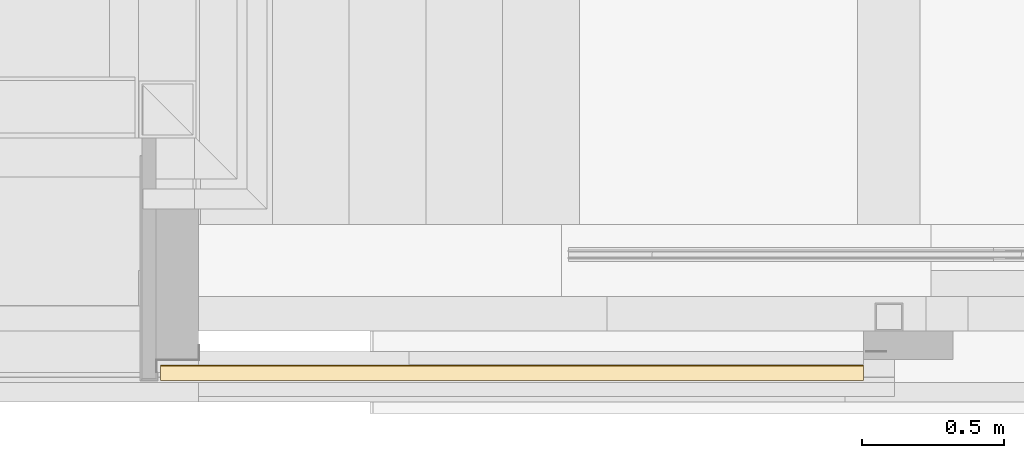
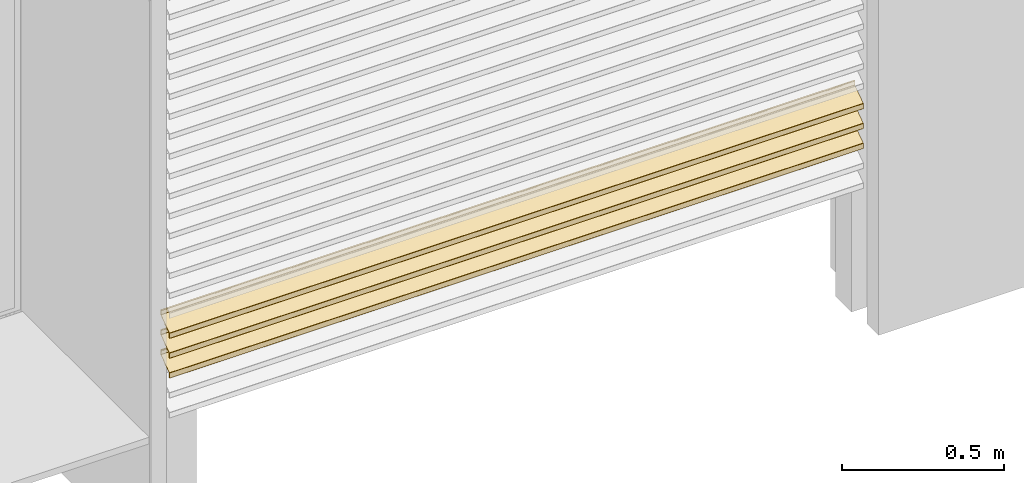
# One storey, part 102 of 165: 3 coverings, 1 element without a shape of its own.
"""IFC2X3 building model written with IfcOpenShell, lengths in millimetres."""

from ifc_helpers import new_model, entity, si_unit, converted_unit, derived_unit, money_unit, direction, frame, origin_with_axes, place, context, subcontext, project, spatial, faceted_brep, material, type_object, element, aggregate, save


model = new_model("IFC2X3")

# Units and contexts
model_context = context("Model", 3, precision=0.01, world=origin_with_axes(), true_north=direction((0.0, 1.0)))
body_context = subcontext(model_context, "Body", "Model", "MODEL_VIEW")
ifc_project = project(units=[si_unit("LENGTHUNIT", "METRE", prefix="MILLI"), si_unit("AREAUNIT", "SQUARE_METRE"), si_unit("VOLUMEUNIT", "CUBIC_METRE"), converted_unit("PLANEANGLEUNIT", "DEGREE", entity("IfcPlaneAngleMeasure", 0.0174532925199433), si_unit("PLANEANGLEUNIT", "RADIAN"), dimensions=[0, 0, 0, 0, 0, 0, 0]), money_unit("EUR"), converted_unit("TIMEUNIT", "Year", entity("IfcTimeMeasure", 31556926.0), si_unit("TIMEUNIT", "SECOND"), dimensions=[0, 0, 1, 0, 0, 0, 0]), si_unit("MASSUNIT", "GRAM", prefix="KILO"), si_unit("THERMODYNAMICTEMPERATUREUNIT", "DEGREE_CELSIUS"), si_unit("LUMINOUSINTENSITYUNIT", "LUMEN"), si_unit("ENERGYUNIT", "JOULE", prefix="MEGA"), derived_unit("THERMALCONDUCTANCEUNIT", [(si_unit("POWERUNIT", "WATT"), 1), (si_unit("LENGTHUNIT", "METRE"), -1), (si_unit("THERMODYNAMICTEMPERATUREUNIT", "KELVIN"), -1)]), derived_unit("SPECIFICHEATCAPACITYUNIT", [(si_unit("ENERGYUNIT", "JOULE"), 1), (si_unit("MASSUNIT", "GRAM", prefix="KILO"), -1), (si_unit("THERMODYNAMICTEMPERATUREUNIT", "KELVIN"), -1)]), derived_unit("MASSDENSITYUNIT", [(si_unit("MASSUNIT", "GRAM", prefix="KILO"), 1), (si_unit("VOLUMEUNIT", "CUBIC_METRE"), -1)])], contexts=[model_context])

# Site, building, storey
site_placement = place(None, origin_with_axes())
site = spatial("IfcSite", under=ifc_project, at=site_placement, Name="Site", CompositionType="ELEMENT")
building_placement = place(site_placement, origin_with_axes())
building = spatial("IfcBuilding", under=site, at=building_placement, Name="Naam gebouw", CompositionType="ELEMENT")
storey_placement = place(building_placement, origin_with_axes())
storey = spatial("IfcBuildingStorey", under=building, at=storey_placement, Name="Begane grond", CompositionType="ELEMENT", Elevation=0.0)

# Beam, coverings
beam_type = type_object("IfcBeamType", Name="30 Duco Louvre deur 55 x 2627", PredefinedType="BEAM")
beam_placement = place(storey_placement, frame((13900.0, -116.9904125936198, 0.0), z_axis=(0.0, 0.0, 1.0), x_axis=(0.0, 1.0, 0.0)))
beam = element("IfcBeam", 1, at=beam_placement, inside=storey, type_object=beam_type, Name="_Regenwaterafvoer-x", ObjectType="BEAM")
ifc_material = material(Name="Metaal - Aluminium")
covering_1_placement = place(beam_placement, origin_with_axes())
covering_1 = element("IfcCovering", 2, at=covering_1_placement, material=ifc_material, Name="Metaal - Aluminium", PredefinedType="NOTDEFINED", context=body_context, shape_type="Brep", body=[
    faceted_brep([(-4.027927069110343, 2473.999999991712, 233.6995018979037), (-56.57357643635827, 2473.999999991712, 196.9066421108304), (-56.57357643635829, 0.0, 196.9066421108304), (-4.027927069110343, 0.0, 233.6995018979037), (-3.900000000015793, 2473.999999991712, 233.9452475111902), (-3.900000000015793, 2473.999999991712, 249.1264285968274), (-3.975892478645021, 2473.999999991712, 249.325867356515), (-4.165172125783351, 2473.999999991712, 249.4244001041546), (-4.372072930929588, 2473.999999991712, 249.3721742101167), (-5.427927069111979, 2473.999999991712, 248.6328571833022), (-5.634827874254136, 2473.999999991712, 248.5806312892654), (-5.824107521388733, 2473.999999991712, 248.679164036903), (-5.900000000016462, 2473.999999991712, 248.8786027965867), (-5.900000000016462, 2473.999999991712, 250.4656097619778), (-5.772072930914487, 2473.999999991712, 250.7113553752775), (-2.944145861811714, 2473.999999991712, 252.6914912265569), (-2.530344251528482, 2473.999999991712, 252.7959430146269), (-2.15178495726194, 2473.999999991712, 252.5988775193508), (-2.000000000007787, 2473.999999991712, 252.199999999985), (-2.000000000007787, 2473.999999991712, 233.3205670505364), (-2.42642356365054, 2473.999999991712, 232.5014150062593), (-26.08018232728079, 2473.999999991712, 215.9388748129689), (-26.40000000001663, 2473.999999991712, 215.3245107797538), (-26.40000000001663, 2473.999999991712, 212.1278174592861), (-26.61966991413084, 2473.999999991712, 211.5974873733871), (-28.0585786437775, 2473.999999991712, 210.158578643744), (-28.20000000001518, 2473.999999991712, 210.0999999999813), (-28.34142135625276, 2473.999999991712, 210.1585786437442), (-28.40000000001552, 2473.999999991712, 210.2999999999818), (-28.40000000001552, 2473.999999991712, 212.8737843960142), (-28.5897311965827, 2473.999999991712, 213.3723812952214), (-29.06293031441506, 2473.999999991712, 213.6187131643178), (-29.58018232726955, 2473.999999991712, 213.4881484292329), (-30.60000000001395, 2473.999999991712, 212.7740644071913), (-30.60000000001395, 2473.999999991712, 207.5999999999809), (-30.74644660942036, 2473.999999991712, 207.2464466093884), (-31.10000000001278, 2473.999999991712, 207.099999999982), (-32.10000000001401, 2473.999999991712, 207.099999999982), (-32.45355339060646, 2473.999999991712, 207.2464466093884), (-32.60000000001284, 2473.999999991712, 207.5999999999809), (-32.60000000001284, 2473.999999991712, 209.9329127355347), (-32.7897311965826, 2473.999999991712, 210.4315096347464), (-33.26293031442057, 2473.999999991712, 210.677841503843), (-33.78018232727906, 2473.999999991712, 210.547276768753), (-54.97207293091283, 2473.999999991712, 195.7085552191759), (-55.10000000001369, 2473.999999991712, 195.4628096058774), (-55.10000000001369, 2473.999999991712, 179.9735714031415), (-55.02410752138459, 2473.999999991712, 179.7741326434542), (-54.83482787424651, 2473.999999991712, 179.6755998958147), (-54.62792706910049, 2473.999999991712, 179.7278257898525), (-53.572072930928, 2473.999999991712, 180.4671428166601), (-53.36517212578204, 2473.999999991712, 180.5193687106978), (-53.17589247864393, 2473.999999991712, 180.4208359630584), (-53.1000000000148, 2473.999999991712, 180.2213972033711), (-53.1000000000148, 2473.999999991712, 178.6343902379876), (-53.22792706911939, 2473.999999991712, 178.3886446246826), (-56.05585413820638, 2473.999999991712, 176.4085087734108), (-56.46965574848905, 2473.999999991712, 176.3040569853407), (-56.84821504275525, 2473.999999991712, 176.5011224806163), (-57.00000000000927, 2473.999999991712, 176.8999999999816), (-57.00000000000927, 2473.999999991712, 196.0874900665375), (-57.00000000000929, 0.0, 196.0874900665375), (-57.00000000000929, 0.0, 176.8999999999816), (-56.84821504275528, 0.0, 176.5011224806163), (-56.46965574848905, 0.0, 176.3040569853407), (-56.05585413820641, 0.0, 176.4085087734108), (-53.22792706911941, 0.0, 178.3886446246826), (-53.10000000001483, 0.0, 178.6343902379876), (-53.10000000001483, 0.0, 180.2213972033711), (-53.17589247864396, 0.0, 180.4208359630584), (-53.36517212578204, 0.0, 180.5193687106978), (-53.57207293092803, 0.0, 180.4671428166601), (-54.62792706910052, 0.0, 179.7278257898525), (-54.83482787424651, 0.0, 179.6755998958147), (-55.02410752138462, 0.0, 179.7741326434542), (-55.10000000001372, 0.0, 179.9735714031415), (-55.10000000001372, 0.0, 195.4628096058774), (-54.97207293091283, 0.0, 195.7085552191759), (-33.78018232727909, 0.0, 210.547276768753), (-33.26293031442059, 0.0, 210.677841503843), (-32.78973119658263, 0.0, 210.4315096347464), (-32.60000000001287, 0.0, 209.9329127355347), (-32.60000000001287, 0.0, 207.5999999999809), (-32.45355339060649, 0.0, 207.2464466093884), (-32.10000000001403, 0.0, 207.099999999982), (-31.10000000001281, 0.0, 207.099999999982), (-30.74644660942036, 0.0, 207.2464466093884), (-30.60000000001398, 0.0, 207.5999999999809), (-30.60000000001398, 0.0, 212.7740644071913), (-29.58018232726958, 0.0, 213.4881484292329), (-29.06293031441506, 0.0, 213.6187131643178), (-28.5897311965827, 0.0, 213.3723812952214), (-28.40000000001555, 0.0, 212.8737843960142), (-28.40000000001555, 0.0, 210.2999999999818), (-28.34142135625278, 0.0, 210.1585786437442), (-28.20000000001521, 0.0, 210.0999999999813), (-28.05857864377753, 0.0, 210.158578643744), (-26.61966991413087, 0.0, 211.5974873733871), (-26.40000000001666, 0.0, 212.1278174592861), (-26.40000000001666, 0.0, 215.3245107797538), (-26.08018232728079, 0.0, 215.9388748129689), (-2.42642356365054, 0.0, 232.5014150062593), (-2.000000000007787, 0.0, 233.3205670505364), (-2.000000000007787, 0.0, 252.199999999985), (-2.15178495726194, 0.0, 252.5988775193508), (-2.530344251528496, 0.0, 252.7959430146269), (-2.944145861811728, 0.0, 252.6914912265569), (-5.772072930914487, 0.0, 250.7113553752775), (-5.900000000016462, 0.0, 250.4656097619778), (-5.900000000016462, 0.0, 248.8786027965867), (-5.824107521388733, 0.0, 248.679164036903), (-5.634827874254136, 0.0, 248.5806312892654), (-5.427927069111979, 0.0, 248.6328571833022), (-4.372072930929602, 0.0, 249.3721742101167), (-4.165172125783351, 0.0, 249.4244001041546), (-3.975892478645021, 0.0, 249.325867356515), (-3.900000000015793, 0.0, 249.1264285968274), (-3.900000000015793, 0.0, 233.9452475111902)], [[[0, 1, 2, 3]], [[0, 4, 5, 6, 7, 8, 9, 10, 11, 12, 13, 14, 15, 16, 17, 18, 19, 20, 21, 22, 23, 24, 25, 26, 27, 28, 29, 30, 31, 32, 33, 34, 35, 36, 37, 38, 39, 40, 41, 42, 43, 44, 45, 46, 47, 48, 49, 50, 51, 52, 53, 54, 55, 56, 57, 58, 59, 60, 1]], [[1, 60, 61, 2]], [[3, 2, 61, 62, 63, 64, 65, 66, 67, 68, 69, 70, 71, 72, 73, 74, 75, 76, 77, 78, 79, 80, 81, 82, 83, 84, 85, 86, 87, 88, 89, 90, 91, 92, 93, 94, 95, 96, 97, 98, 99, 100, 101, 102, 103, 104, 105, 106, 107, 108, 109, 110, 111, 112, 113, 114, 115, 116, 117]], [[4, 0, 3, 117]], [[5, 4, 117, 116]], [[6, 5, 116, 115]], [[7, 6, 115, 114]], [[8, 7, 114, 113]], [[9, 8, 113, 112]], [[10, 9, 112, 111]], [[11, 10, 111, 110]], [[12, 11, 110, 109]], [[13, 12, 109, 108]], [[14, 13, 108, 107]], [[15, 14, 107, 106]], [[16, 15, 106, 105]], [[17, 16, 105, 104]], [[18, 17, 104, 103]], [[19, 18, 103, 102]], [[20, 19, 102, 101]], [[21, 20, 101, 100]], [[22, 21, 100, 99]], [[23, 22, 99, 98]], [[24, 23, 98, 97]], [[25, 24, 97, 96]], [[26, 25, 96, 95]], [[27, 26, 95, 94]], [[28, 27, 94, 93]], [[29, 28, 93, 92]], [[30, 29, 92, 91]], [[31, 30, 91, 90]], [[32, 31, 90, 89]], [[33, 32, 89, 88]], [[34, 33, 88, 87]], [[35, 34, 87, 86]], [[36, 35, 86, 85]], [[37, 36, 85, 84]], [[38, 37, 84, 83]], [[39, 38, 83, 82]], [[40, 39, 82, 81]], [[41, 40, 81, 80]], [[42, 41, 80, 79]], [[43, 42, 79, 78]], [[44, 43, 78, 77]], [[45, 44, 77, 76]], [[46, 45, 76, 75]], [[47, 46, 75, 74]], [[48, 47, 74, 73]], [[49, 48, 73, 72]], [[50, 49, 72, 71]], [[51, 50, 71, 70]], [[52, 51, 70, 69]], [[53, 52, 69, 68]], [[54, 53, 68, 67]], [[55, 54, 67, 66]], [[56, 55, 66, 65]], [[57, 56, 65, 64]], [[58, 57, 64, 63]], [[59, 58, 63, 62]], [[60, 59, 62, 61]]]),
])
covering_2_placement = place(beam_placement, origin_with_axes())
covering_2 = element("IfcCovering", 3, at=covering_2_placement, material=ifc_material, Name="Metaal - Aluminium", PredefinedType="NOTDEFINED", context=body_context, shape_type="Brep", body=[
    faceted_brep([(-4.027927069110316, 2473.999999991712, 308.6995018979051), (-56.57357643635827, 2473.999999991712, 271.9066421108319), (-56.57357643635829, 0.0, 271.9066421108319), (-4.027927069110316, 0.0, 308.6995018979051), (-3.90000000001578, 2473.999999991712, 308.9452475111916), (-3.90000000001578, 2473.999999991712, 324.1264285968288), (-3.97589247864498, 2473.999999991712, 324.3258673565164), (-4.165172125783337, 2473.999999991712, 324.4244001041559), (-4.372072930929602, 2473.999999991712, 324.3721742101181), (-5.427927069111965, 2473.999999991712, 323.6328571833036), (-5.634827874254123, 2473.999999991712, 323.5806312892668), (-5.824107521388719, 2473.999999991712, 323.6791640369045), (-5.900000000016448, 2473.999999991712, 323.8786027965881), (-5.900000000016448, 2473.999999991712, 325.4656097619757), (-5.772072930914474, 2473.999999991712, 325.7113553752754), (-2.944145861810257, 2473.999999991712, 327.6914912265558), (-2.530344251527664, 2473.999999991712, 327.7959430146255), (-2.151784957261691, 2473.999999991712, 327.5988775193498), (-2.000000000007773, 2473.999999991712, 327.1999999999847), (-2.000000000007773, 2473.999999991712, 308.3205670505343), (-2.426423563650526, 2473.999999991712, 307.5014150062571), (-26.08018232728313, 2473.999999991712, 290.9388748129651), (-26.40000000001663, 2473.999999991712, 290.3245107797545), (-26.40000000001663, 2473.999999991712, 287.1278174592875), (-26.61966991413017, 2473.999999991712, 286.5974873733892), (-28.05857864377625, 2473.999999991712, 285.1585786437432), (-28.20000000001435, 2473.999999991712, 285.0999999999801), (-28.34142135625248, 2473.999999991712, 285.1585786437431), (-28.40000000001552, 2473.999999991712, 285.2999999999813), (-28.40000000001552, 2473.999999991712, 287.8737843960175), (-28.58973119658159, 2473.999999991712, 288.3723812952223), (-29.06293031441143, 2473.999999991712, 288.6187131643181), (-29.58018232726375, 2473.999999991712, 288.4881484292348), (-30.60000000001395, 2473.999999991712, 287.7740644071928), (-30.60000000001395, 2473.999999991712, 282.5999999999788), (-30.74644660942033, 2473.999999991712, 282.2464466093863), (-31.10000000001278, 2473.999999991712, 282.0999999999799), (-32.10000000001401, 2473.999999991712, 282.0999999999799), (-32.45355339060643, 2473.999999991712, 282.2464466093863), (-32.60000000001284, 2473.999999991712, 282.5999999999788), (-32.60000000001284, 2473.999999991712, 284.9329127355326), (-32.78973119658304, 2473.999999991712, 285.4315096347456), (-33.26293031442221, 2473.999999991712, 285.6778415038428), (-33.78018232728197, 2473.999999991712, 285.5472767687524), (-54.97207293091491, 2473.999999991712, 270.7085552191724), (-55.10000000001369, 2473.999999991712, 270.4628096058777), (-55.10000000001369, 2473.999999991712, 254.973571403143), (-55.02410752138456, 2473.999999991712, 254.7741326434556), (-54.83482787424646, 2473.999999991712, 254.6755998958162), (-54.62792706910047, 2473.999999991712, 254.7278257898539), (-53.572072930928, 2473.999999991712, 255.4671428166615), (-53.36517212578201, 2473.999999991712, 255.5193687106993), (-53.17589247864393, 2473.999999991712, 255.4208359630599), (-53.1000000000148, 2473.999999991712, 255.2213972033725), (-53.1000000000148, 2473.999999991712, 253.6343902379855), (-53.22792706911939, 2473.999999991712, 253.3886446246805), (-56.05585413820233, 2473.999999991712, 251.4085087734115), (-56.46965574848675, 2473.999999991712, 251.3040569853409), (-56.84821504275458, 2473.999999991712, 251.5011224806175), (-57.00000000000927, 2473.999999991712, 251.8999999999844), (-57.00000000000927, 2473.999999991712, 271.087490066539), (-57.00000000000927, 0.0, 271.087490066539), (-57.00000000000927, 0.0, 251.8999999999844), (-56.84821504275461, 0.0, 251.5011224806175), (-56.46965574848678, 0.0, 251.3040569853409), (-56.05585413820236, 0.0, 251.4085087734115), (-53.22792706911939, 0.0, 253.3886446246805), (-53.1000000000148, 0.0, 253.6343902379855), (-53.1000000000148, 0.0, 255.2213972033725), (-53.17589247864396, 0.0, 255.4208359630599), (-53.36517212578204, 0.0, 255.5193687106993), (-53.57207293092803, 0.0, 255.4671428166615), (-54.62792706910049, 0.0, 254.7278257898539), (-54.83482787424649, 0.0, 254.6755998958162), (-55.02410752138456, 0.0, 254.7741326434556), (-55.10000000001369, 0.0, 254.973571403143), (-55.10000000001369, 0.0, 270.4628096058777), (-54.97207293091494, 0.0, 270.7085552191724), (-33.780182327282, 0.0, 285.5472767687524), (-33.26293031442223, 0.0, 285.6778415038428), (-32.78973119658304, 0.0, 285.4315096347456), (-32.60000000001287, 0.0, 284.9329127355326), (-32.60000000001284, 0.0, 282.5999999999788), (-32.45355339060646, 0.0, 282.2464466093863), (-32.10000000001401, 0.0, 282.0999999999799), (-31.10000000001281, 0.0, 282.0999999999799), (-30.74644660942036, 0.0, 282.2464466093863), (-30.60000000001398, 0.0, 282.5999999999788), (-30.60000000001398, 0.0, 287.7740644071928), (-29.58018232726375, 0.0, 288.4881484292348), (-29.06293031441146, 0.0, 288.6187131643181), (-28.58973119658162, 0.0, 288.3723812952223), (-28.40000000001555, 0.0, 287.8737843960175), (-28.40000000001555, 0.0, 285.2999999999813), (-28.3414213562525, 0.0, 285.1585786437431), (-28.20000000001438, 0.0, 285.0999999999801), (-28.05857864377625, 0.0, 285.1585786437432), (-26.6196699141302, 0.0, 286.5974873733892), (-26.40000000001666, 0.0, 287.1278174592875), (-26.40000000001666, 0.0, 290.3245107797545), (-26.08018232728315, 0.0, 290.9388748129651), (-2.426423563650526, 0.0, 307.5014150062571), (-2.000000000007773, 0.0, 308.3205670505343), (-2.000000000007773, 0.0, 327.1999999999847), (-2.151784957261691, 0.0, 327.5988775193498), (-2.530344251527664, 0.0, 327.7959430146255), (-2.944145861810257, 0.0, 327.6914912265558), (-5.772072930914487, 0.0, 325.7113553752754), (-5.900000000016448, 0.0, 325.4656097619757), (-5.900000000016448, 0.0, 323.8786027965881), (-5.824107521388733, 0.0, 323.6791640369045), (-5.634827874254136, 0.0, 323.5806312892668), (-5.427927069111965, 0.0, 323.6328571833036), (-4.372072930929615, 0.0, 324.3721742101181), (-4.165172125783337, 0.0, 324.4244001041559), (-3.97589247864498, 0.0, 324.3258673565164), (-3.90000000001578, 0.0, 324.1264285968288), (-3.90000000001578, 0.0, 308.9452475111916)], [[[0, 1, 2, 3]], [[0, 4, 5, 6, 7, 8, 9, 10, 11, 12, 13, 14, 15, 16, 17, 18, 19, 20, 21, 22, 23, 24, 25, 26, 27, 28, 29, 30, 31, 32, 33, 34, 35, 36, 37, 38, 39, 40, 41, 42, 43, 44, 45, 46, 47, 48, 49, 50, 51, 52, 53, 54, 55, 56, 57, 58, 59, 60, 1]], [[1, 60, 61, 2]], [[3, 2, 61, 62, 63, 64, 65, 66, 67, 68, 69, 70, 71, 72, 73, 74, 75, 76, 77, 78, 79, 80, 81, 82, 83, 84, 85, 86, 87, 88, 89, 90, 91, 92, 93, 94, 95, 96, 97, 98, 99, 100, 101, 102, 103, 104, 105, 106, 107, 108, 109, 110, 111, 112, 113, 114, 115, 116, 117]], [[4, 0, 3, 117]], [[5, 4, 117, 116]], [[6, 5, 116, 115]], [[7, 6, 115, 114]], [[8, 7, 114, 113]], [[9, 8, 113, 112]], [[10, 9, 112, 111]], [[11, 10, 111, 110]], [[12, 11, 110, 109]], [[13, 12, 109, 108]], [[14, 13, 108, 107]], [[15, 14, 107, 106]], [[16, 15, 106, 105]], [[17, 16, 105, 104]], [[18, 17, 104, 103]], [[19, 18, 103, 102]], [[20, 19, 102, 101]], [[21, 20, 101, 100]], [[22, 21, 100, 99]], [[23, 22, 99, 98]], [[24, 23, 98, 97]], [[25, 24, 97, 96]], [[26, 25, 96, 95]], [[27, 26, 95, 94]], [[28, 27, 94, 93]], [[29, 28, 93, 92]], [[30, 29, 92, 91]], [[31, 30, 91, 90]], [[32, 31, 90, 89]], [[33, 32, 89, 88]], [[34, 33, 88, 87]], [[35, 34, 87, 86]], [[36, 35, 86, 85]], [[37, 36, 85, 84]], [[38, 37, 84, 83]], [[39, 38, 83, 82]], [[40, 39, 82, 81]], [[41, 40, 81, 80]], [[42, 41, 80, 79]], [[43, 42, 79, 78]], [[44, 43, 78, 77]], [[45, 44, 77, 76]], [[46, 45, 76, 75]], [[47, 46, 75, 74]], [[48, 47, 74, 73]], [[49, 48, 73, 72]], [[50, 49, 72, 71]], [[51, 50, 71, 70]], [[52, 51, 70, 69]], [[53, 52, 69, 68]], [[54, 53, 68, 67]], [[55, 54, 67, 66]], [[56, 55, 66, 65]], [[57, 56, 65, 64]], [[58, 57, 64, 63]], [[59, 58, 63, 62]], [[60, 59, 62, 61]]]),
])
covering_3_placement = place(beam_placement, origin_with_axes())
covering_3 = element("IfcCovering", 4, at=covering_3_placement, material=ifc_material, Name="Metaal - Aluminium", PredefinedType="NOTDEFINED", context=body_context, shape_type="Brep", body=[
    faceted_brep([(-4.027927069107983, 2473.999999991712, 383.6995018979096), (-56.57357643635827, 2473.999999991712, 346.9066421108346), (-56.57357643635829, 0.0, 346.9066421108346), (-4.027927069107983, 0.0, 383.6995018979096), (-3.90000000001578, 2473.999999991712, 383.9452475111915), (-3.90000000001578, 2473.999999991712, 399.1264285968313), (-3.975892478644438, 2473.999999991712, 399.3258673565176), (-4.165172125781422, 2473.999999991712, 399.4244001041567), (-4.372072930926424, 2473.999999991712, 399.3721742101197), (-5.427927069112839, 2473.999999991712, 398.6328571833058), (-5.634827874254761, 2473.999999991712, 398.5806312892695), (-5.824107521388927, 2473.999999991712, 398.6791640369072), (-5.900000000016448, 2473.999999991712, 398.8786027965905), (-5.900000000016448, 2473.999999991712, 400.4656097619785), (-5.772072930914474, 2473.999999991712, 400.7113553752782), (-2.944145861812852, 2473.999999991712, 402.6914912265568), (-2.530344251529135, 2473.999999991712, 402.7959430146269), (-2.15178495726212, 2473.999999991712, 402.5988775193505), (-2.000000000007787, 2473.999999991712, 402.1999999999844), (-2.000000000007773, 2473.999999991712, 383.3205670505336), (-2.426423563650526, 2473.999999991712, 382.5014150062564), (-26.08018232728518, 2473.999999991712, 365.9388748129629), (-26.40000000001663, 2473.999999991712, 365.3245107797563), (-26.40000000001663, 2473.999999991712, 362.1278174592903), (-26.61966991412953, 2473.999999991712, 361.5974873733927), (-28.05857864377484, 2473.999999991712, 360.1585786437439), (-28.20000000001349, 2473.999999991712, 360.0999999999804), (-28.34142135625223, 2473.999999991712, 360.1585786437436), (-28.40000000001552, 2473.999999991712, 360.2999999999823), (-28.40000000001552, 2473.999999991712, 362.8737843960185), (-28.58973119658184, 2473.999999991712, 363.372381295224), (-29.06293031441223, 2473.999999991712, 363.61871316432), (-29.5801823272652, 2473.999999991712, 363.4881484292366), (-30.60000000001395, 2473.999999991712, 362.7740644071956), (-30.60000000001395, 2473.999999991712, 357.5999999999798), (-30.74644660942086, 2473.999999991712, 357.2464466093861), (-31.10000000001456, 2473.999999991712, 357.0999999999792), (-32.10000000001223, 2473.999999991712, 357.0999999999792), (-32.45355339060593, 2473.999999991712, 357.2464466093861), (-32.60000000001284, 2473.999999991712, 357.5999999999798), (-32.60000000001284, 2473.999999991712, 359.9329127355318), (-32.78973119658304, 2473.999999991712, 360.4315096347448), (-33.26293031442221, 2473.999999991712, 360.677841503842), (-33.78018232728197, 2473.999999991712, 360.5472767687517), (-54.97207293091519, 2473.999999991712, 345.7085552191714), (-55.10000000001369, 2473.999999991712, 345.4628096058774), (-55.10000000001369, 2473.999999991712, 329.9735714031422), (-55.02410752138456, 2473.999999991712, 329.7741326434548), (-54.83482787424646, 2473.999999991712, 329.6755998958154), (-54.62792706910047, 2473.999999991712, 329.7278257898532), (-53.572072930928, 2473.999999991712, 330.4671428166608), (-53.36517212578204, 2473.999999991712, 330.5193687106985), (-53.17589247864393, 2473.999999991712, 330.4208359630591), (-53.1000000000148, 2473.999999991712, 330.2213972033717), (-53.1000000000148, 2473.999999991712, 328.6343902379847), (-53.22792706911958, 2473.999999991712, 328.3886446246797), (-56.05585413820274, 2473.999999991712, 326.408508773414), (-56.46965574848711, 2473.999999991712, 326.3040569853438), (-56.8482150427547, 2473.999999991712, 326.5011224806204), (-57.00000000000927, 2473.999999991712, 326.8999999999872), (-57.00000000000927, 2473.999999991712, 346.0874900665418), (-57.00000000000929, 0.0, 346.0874900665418), (-57.00000000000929, 0.0, 326.8999999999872), (-56.84821504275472, 0.0, 326.5011224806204), (-56.46965574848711, 0.0, 326.3040569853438), (-56.05585413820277, 0.0, 326.408508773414), (-53.22792706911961, 0.0, 328.3886446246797), (-53.10000000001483, 0.0, 328.6343902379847), (-53.10000000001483, 0.0, 330.2213972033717), (-53.17589247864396, 0.0, 330.4208359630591), (-53.36517212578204, 0.0, 330.5193687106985), (-53.57207293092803, 0.0, 330.4671428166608), (-54.62792706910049, 0.0, 329.7278257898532), (-54.83482787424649, 0.0, 329.6755998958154), (-55.02410752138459, 0.0, 329.7741326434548), (-55.10000000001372, 0.0, 329.9735714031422), (-55.10000000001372, 0.0, 345.4628096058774), (-54.97207293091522, 0.0, 345.7085552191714), (-33.780182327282, 0.0, 360.5472767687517), (-33.26293031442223, 0.0, 360.677841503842), (-32.78973119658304, 0.0, 360.4315096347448), (-32.60000000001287, 0.0, 359.9329127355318), (-32.60000000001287, 0.0, 357.5999999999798), (-32.45355339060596, 0.0, 357.2464466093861), (-32.10000000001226, 0.0, 357.0999999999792), (-31.10000000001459, 0.0, 357.0999999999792), (-30.74644660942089, 0.0, 357.2464466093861), (-30.60000000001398, 0.0, 357.5999999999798), (-30.60000000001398, 0.0, 362.7740644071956), (-29.58018232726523, 0.0, 363.4881484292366), (-29.06293031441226, 0.0, 363.61871316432), (-28.58973119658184, 0.0, 363.372381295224), (-28.40000000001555, 0.0, 362.8737843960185), (-28.40000000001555, 0.0, 360.2999999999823), (-28.34142135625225, 0.0, 360.1585786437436), (-28.20000000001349, 0.0, 360.0999999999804), (-28.05857864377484, 0.0, 360.1585786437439), (-26.61966991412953, 0.0, 361.5974873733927), (-26.40000000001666, 0.0, 362.1278174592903), (-26.40000000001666, 0.0, 365.3245107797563), (-26.08018232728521, 0.0, 365.9388748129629), (-2.426423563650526, 0.0, 382.5014150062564), (-2.000000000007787, 0.0, 383.3205670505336), (-2.000000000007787, 0.0, 402.1999999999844), (-2.15178495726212, 0.0, 402.5988775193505), (-2.530344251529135, 0.0, 402.7959430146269), (-2.944145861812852, 0.0, 402.6914912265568), (-5.772072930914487, 0.0, 400.7113553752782), (-5.900000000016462, 0.0, 400.4656097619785), (-5.900000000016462, 0.0, 398.8786027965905), (-5.824107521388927, 0.0, 398.6791640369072), (-5.634827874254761, 0.0, 398.5806312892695), (-5.427927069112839, 0.0, 398.6328571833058), (-4.372072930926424, 0.0, 399.3721742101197), (-4.165172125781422, 0.0, 399.4244001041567), (-3.975892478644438, 0.0, 399.3258673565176), (-3.900000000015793, 0.0, 399.1264285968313), (-3.900000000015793, 0.0, 383.9452475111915)], [[[0, 1, 2, 3]], [[0, 4, 5, 6, 7, 8, 9, 10, 11, 12, 13, 14, 15, 16, 17, 18, 19, 20, 21, 22, 23, 24, 25, 26, 27, 28, 29, 30, 31, 32, 33, 34, 35, 36, 37, 38, 39, 40, 41, 42, 43, 44, 45, 46, 47, 48, 49, 50, 51, 52, 53, 54, 55, 56, 57, 58, 59, 60, 1]], [[1, 60, 61, 2]], [[3, 2, 61, 62, 63, 64, 65, 66, 67, 68, 69, 70, 71, 72, 73, 74, 75, 76, 77, 78, 79, 80, 81, 82, 83, 84, 85, 86, 87, 88, 89, 90, 91, 92, 93, 94, 95, 96, 97, 98, 99, 100, 101, 102, 103, 104, 105, 106, 107, 108, 109, 110, 111, 112, 113, 114, 115, 116, 117]], [[4, 0, 3, 117]], [[5, 4, 117, 116]], [[6, 5, 116, 115]], [[7, 6, 115, 114]], [[8, 7, 114, 113]], [[9, 8, 113, 112]], [[10, 9, 112, 111]], [[11, 10, 111, 110]], [[12, 11, 110, 109]], [[13, 12, 109, 108]], [[14, 13, 108, 107]], [[15, 14, 107, 106]], [[16, 15, 106, 105]], [[17, 16, 105, 104]], [[18, 17, 104, 103]], [[19, 18, 103, 102]], [[20, 19, 102, 101]], [[21, 20, 101, 100]], [[22, 21, 100, 99]], [[23, 22, 99, 98]], [[24, 23, 98, 97]], [[25, 24, 97, 96]], [[26, 25, 96, 95]], [[27, 26, 95, 94]], [[28, 27, 94, 93]], [[29, 28, 93, 92]], [[30, 29, 92, 91]], [[31, 30, 91, 90]], [[32, 31, 90, 89]], [[33, 32, 89, 88]], [[34, 33, 88, 87]], [[35, 34, 87, 86]], [[36, 35, 86, 85]], [[37, 36, 85, 84]], [[38, 37, 84, 83]], [[39, 38, 83, 82]], [[40, 39, 82, 81]], [[41, 40, 81, 80]], [[42, 41, 80, 79]], [[43, 42, 79, 78]], [[44, 43, 78, 77]], [[45, 44, 77, 76]], [[46, 45, 76, 75]], [[47, 46, 75, 74]], [[48, 47, 74, 73]], [[49, 48, 73, 72]], [[50, 49, 72, 71]], [[51, 50, 71, 70]], [[52, 51, 70, 69]], [[53, 52, 69, 68]], [[54, 53, 68, 67]], [[55, 54, 67, 66]], [[56, 55, 66, 65]], [[57, 56, 65, 64]], [[58, 57, 64, 63]], [[59, 58, 63, 62]], [[60, 59, 62, 61]]]),
])
aggregate(beam, [covering_1, covering_2, covering_3])

save(model, "model.ifc")
